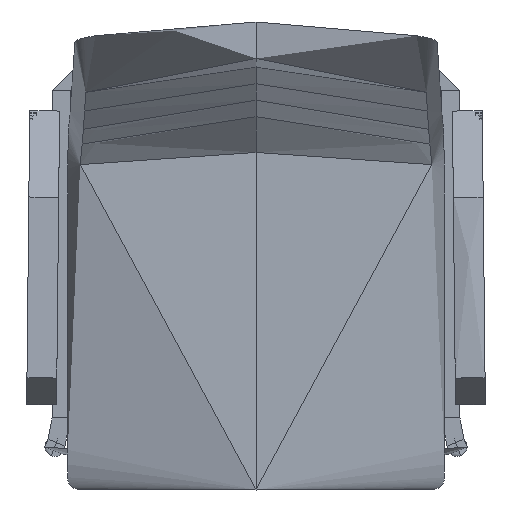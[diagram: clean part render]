
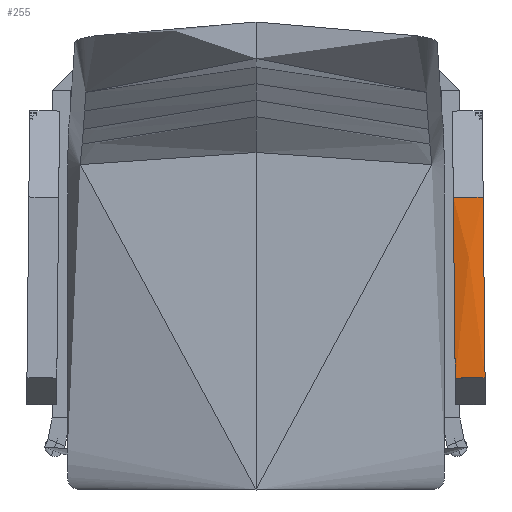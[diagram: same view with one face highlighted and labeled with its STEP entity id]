
A CAD part, top view. The second image highlights one B-rep face of the part: STEP entity #255.
In plain terms, the highlighted free-form (B-spline) face has degree [3, 3] with [4, 5] control points.
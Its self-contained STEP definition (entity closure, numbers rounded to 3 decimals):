
#255=ADVANCED_FACE('',(#419),#2347,.T.);
#419=FACE_OUTER_BOUND('',#587,.T.);
#587=EDGE_LOOP('',(#992,#993,#994,#995));
#992=ORIENTED_EDGE('',*,*,#1546,.T.);
#993=ORIENTED_EDGE('',*,*,#1547,.T.);
#994=ORIENTED_EDGE('',*,*,#1548,.T.);
#995=ORIENTED_EDGE('',*,*,#1549,.T.);
#1546=EDGE_CURVE('',#2108,#2109,#1893,.T.);
#1547=EDGE_CURVE('',#2109,#2110,#1894,.T.);
#1548=EDGE_CURVE('',#2110,#2111,#1895,.T.);
#1549=EDGE_CURVE('',#2111,#2108,#1896,.T.);
#1893=(
BOUNDED_CURVE()
B_SPLINE_CURVE(3,(#5771,#5772,#5773,#5774),.UNSPECIFIED.,.F.,.F.)
B_SPLINE_CURVE_WITH_KNOTS((4,4),(0.,217.847),.UNSPECIFIED.)
CURVE()
GEOMETRIC_REPRESENTATION_ITEM()
RATIONAL_B_SPLINE_CURVE((1.,1.,1.,1.))
REPRESENTATION_ITEM('')
);
#1894=(
BOUNDED_CURVE()
B_SPLINE_CURVE(3,(#5775,#5776,#5777,#5778,#5779),.UNSPECIFIED.,.F.,.F.)
B_SPLINE_CURVE_WITH_KNOTS((4,1,4),(-36.993,-18.496,
0.),.UNSPECIFIED.)
CURVE()
GEOMETRIC_REPRESENTATION_ITEM()
RATIONAL_B_SPLINE_CURVE((1.,1.,1.,1.,1.))
REPRESENTATION_ITEM('')
);
#1895=(
BOUNDED_CURVE()
B_SPLINE_CURVE(3,(#5780,#5781,#5782,#5783),.UNSPECIFIED.,.F.,.F.)
B_SPLINE_CURVE_WITH_KNOTS((4,4),(-217.847,0.),.UNSPECIFIED.)
CURVE()
GEOMETRIC_REPRESENTATION_ITEM()
RATIONAL_B_SPLINE_CURVE((1.,1.,1.,1.))
REPRESENTATION_ITEM('')
);
#1896=(
BOUNDED_CURVE()
B_SPLINE_CURVE(3,(#5784,#5785,#5786,#5787,#5788),.UNSPECIFIED.,.F.,.F.)
B_SPLINE_CURVE_WITH_KNOTS((4,1,4),(0.,18.496,36.993),
 .UNSPECIFIED.)
CURVE()
GEOMETRIC_REPRESENTATION_ITEM()
RATIONAL_B_SPLINE_CURVE((1.,1.,1.,1.,1.))
REPRESENTATION_ITEM('')
);
#2108=VERTEX_POINT('',#5630);
#2109=VERTEX_POINT('',#5631);
#2110=VERTEX_POINT('',#5632);
#2111=VERTEX_POINT('',#5633);
#2347=(
BOUNDED_SURFACE()
B_SPLINE_SURFACE(3,3,((#5256,#5257,#5258,#5259,#5260),(#5261,#5262,#5263,
#5264,#5265),(#5266,#5267,#5268,#5269,#5270),(#5271,#5272,#5273,#5274,#5275)),
 .UNSPECIFIED.,.F.,.F.,.F.)
B_SPLINE_SURFACE_WITH_KNOTS((4,4),(4,1,4),(0.,217.847),(-36.993,
-18.496,0.),.UNSPECIFIED.)
GEOMETRIC_REPRESENTATION_ITEM()
RATIONAL_B_SPLINE_SURFACE(((1.,1.,1.,1.,1.),(1.,1.,1.,1.,
1.),(1.,1.,1.,1.,1.),(1.,1.,1.,1.,1.)))
REPRESENTATION_ITEM('')
SURFACE()
);
#5256=CARTESIAN_POINT('',(237.986,100.487,626.621));
#5257=CARTESIAN_POINT('',(244.421,100.551,629.077));
#5258=CARTESIAN_POINT('',(255.46,100.663,631.937));
#5259=CARTESIAN_POINT('',(268.599,100.804,629.54));
#5260=CARTESIAN_POINT('',(273.984,100.864,626.621));
#5261=CARTESIAN_POINT('',(238.746,27.912,628.941));
#5262=CARTESIAN_POINT('',(245.181,27.977,631.397));
#5263=CARTESIAN_POINT('',(256.22,28.089,634.257));
#5264=CARTESIAN_POINT('',(269.359,28.229,631.861));
#5265=CARTESIAN_POINT('',(274.744,28.289,628.941));
#5266=CARTESIAN_POINT('',(239.509,-44.946,631.27));
#5267=CARTESIAN_POINT('',(246.042,-44.711,633.665));
#5268=CARTESIAN_POINT('',(256.817,-44.396,636.561));
#5269=CARTESIAN_POINT('',(270.346,-44.413,634.268));
#5270=CARTESIAN_POINT('',(275.507,-44.569,631.27));
#5271=CARTESIAN_POINT('',(240.269,-117.521,633.591));
#5272=CARTESIAN_POINT('',(246.802,-117.286,635.986));
#5273=CARTESIAN_POINT('',(257.577,-116.97,638.881));
#5274=CARTESIAN_POINT('',(271.106,-116.988,636.588));
#5275=CARTESIAN_POINT('',(276.267,-117.144,633.591));
#5630=CARTESIAN_POINT('',(237.986,100.487,626.621));
#5631=CARTESIAN_POINT('',(240.269,-117.521,633.591));
#5632=CARTESIAN_POINT('',(276.267,-117.144,633.591));
#5633=CARTESIAN_POINT('',(273.984,100.864,626.621));
#5771=CARTESIAN_POINT('',(237.986,100.487,626.621));
#5772=CARTESIAN_POINT('',(238.746,27.912,628.941));
#5773=CARTESIAN_POINT('',(239.509,-44.946,631.27));
#5774=CARTESIAN_POINT('',(240.269,-117.521,633.591));
#5775=CARTESIAN_POINT('',(240.269,-117.521,633.591));
#5776=CARTESIAN_POINT('',(246.802,-117.286,635.986));
#5777=CARTESIAN_POINT('',(257.577,-116.97,638.881));
#5778=CARTESIAN_POINT('',(271.106,-116.988,636.588));
#5779=CARTESIAN_POINT('',(276.267,-117.144,633.591));
#5780=CARTESIAN_POINT('',(276.267,-117.144,633.591));
#5781=CARTESIAN_POINT('',(275.507,-44.569,631.27));
#5782=CARTESIAN_POINT('',(274.744,28.289,628.941));
#5783=CARTESIAN_POINT('',(273.984,100.864,626.621));
#5784=CARTESIAN_POINT('',(273.984,100.864,626.621));
#5785=CARTESIAN_POINT('',(268.599,100.804,629.54));
#5786=CARTESIAN_POINT('',(255.46,100.663,631.937));
#5787=CARTESIAN_POINT('',(244.421,100.551,629.077));
#5788=CARTESIAN_POINT('',(237.986,100.487,626.621));
